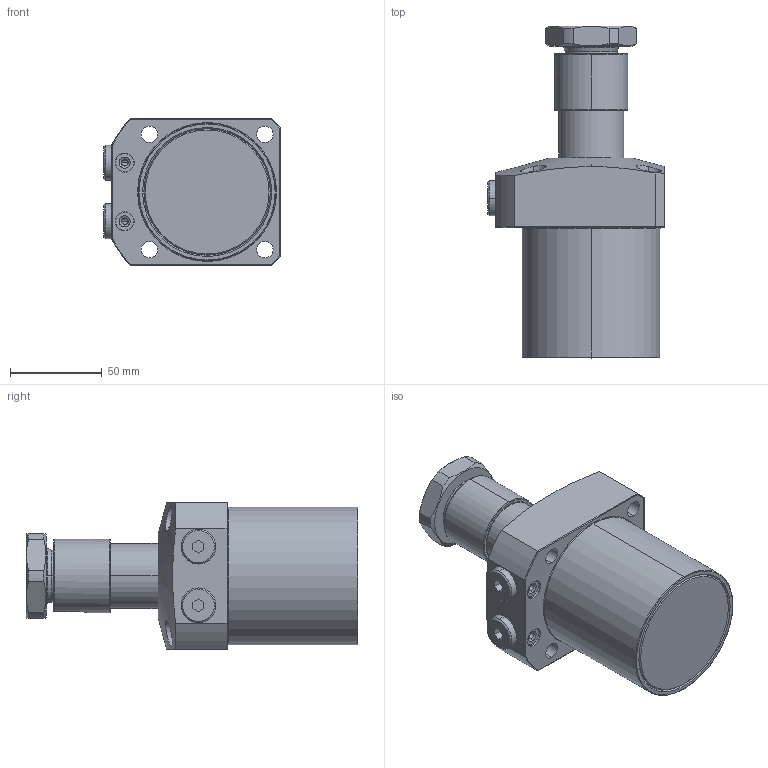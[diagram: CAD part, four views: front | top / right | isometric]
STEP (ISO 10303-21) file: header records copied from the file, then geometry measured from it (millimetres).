
FILE_DESCRIPTION(/* description */ (''),/* implementation_level */ '2;1');
FILE_NAME(/* name */ 'KTRC75-L.stp',/* time_stamp */ '2022-11-17T15:03:54+08:00',/* author */ (''),/* organization */ (''),/* preprocessor_version */ 'ST-DEVELOPER v16.7',/* originating_system */ 'SIEMENS PLM Software NX 12.0',/* authorisation */ '');
FILE_SCHEMA (('AP203_CONFIGURATION_CONTROLLED_3D_DESIGN_OF_MECHANICAL_PARTS_AND_ASSEMBLIES_MIM_LF { 1 0 10303 403 2 1 2}'));
Length unit declared in the file: millimetre
Products named in the file (6): KTRC75-L-05; KTRC75-L-04; KTRC75-L-03; KTRC75-L-02; KTRC75-L-01; LHA0750-CL_step
Assembly tree (6 placements, depth 2):
  LHA0750-CL_step
    KTRC75-L-01
    KTRC75-L-02
    KTRC75-L-03
    KTRC75-L-04
    KTRC75-L-05  x2
Bounding box: 96.5 x 181 x 80 mm (x, y, z)
Volume: 638518.7 mm3; surface area: 72774.2 mm2
Topology: 6 solids, 6 shells, 223 faces, 531 edges, 333 vertices
Faces by surface type: cylinder 77, plane 77, cone 47, torus 20, sphere 2
Entity records: 7427 total; most frequent: CARTESIAN_POINT 1857, DIRECTION 1039, ORIENTED_EDGE 1002, EDGE_CURVE 501, AXIS2_PLACEMENT_3D 423, VERTEX_POINT 315, EDGE_LOOP 238, ADVANCED_FACE 210
